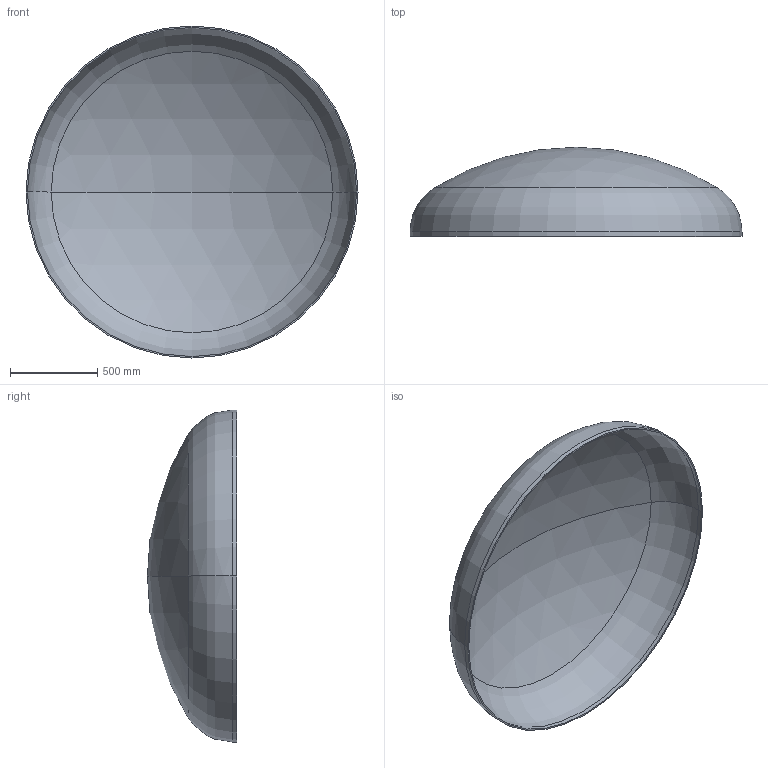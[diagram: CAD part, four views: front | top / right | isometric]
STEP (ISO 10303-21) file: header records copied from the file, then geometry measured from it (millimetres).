
FILE_DESCRIPTION (( 'STEP AP203' ), '1' );
FILE_NAME ('DIN 28013 Korbbogenform_-_Boden DIN 28013 - 1900 x 25 - I - s=8.step', '2016-07-01T12:53:15', ( '' ), ( '' ), 'SwSTEP 2.0', 'SolidWorks 2013', '' );
FILE_SCHEMA (( 'CONFIG_CONTROL_DESIGN' ));
Length unit declared in the file: millimetre
Products named in the file (1): DIN 28013 Korbbogenform_-_Boden DIN 28013 - 1900 x 25 - I - s=8
Bounding box: 1900 x 510.03 x 1900 mm (x, y, z)
Volume: 32376529.3 mm3; surface area: 8141814.3 mm2
Topology: 1 solids, 1 shells, 13 faces, 24 edges, 14 vertices
Faces by surface type: torus 4, cylinder 4, sphere 4, plane 1
Entity records: 407 total; most frequent: DIRECTION 72, CARTESIAN_POINT 52, ORIENTED_EDGE 48, AXIS2_PLACEMENT_3D 34, EDGE_CURVE 24, CIRCLE 20, VERTEX_POINT 14, EDGE_LOOP 14
